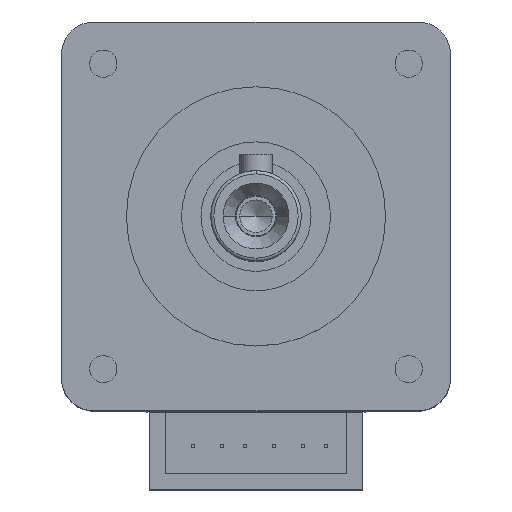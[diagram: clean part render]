
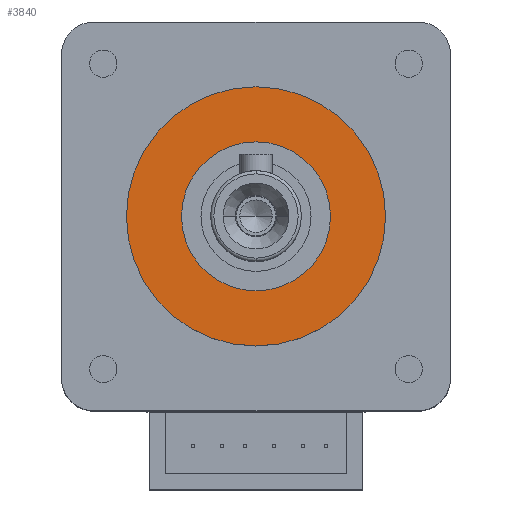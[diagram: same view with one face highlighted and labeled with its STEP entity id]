
A CAD part, top view. The second image highlights one B-rep face of the part: STEP entity #3840.
In plain terms, the highlighted planar face has unit normal (0, 0, 1).
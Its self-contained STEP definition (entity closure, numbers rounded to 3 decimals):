
#173 = CARTESIAN_POINT ( 'NONE',  ( 0., 0., 2.5 ) ) ;
#228 = VERTEX_POINT ( 'NONE', #4759 ) ;
#505 = DIRECTION ( 'NONE',  ( 0., 0., -1. ) ) ;
#790 = CARTESIAN_POINT ( 'NONE',  ( 0., 0., 2.5 ) ) ;
#849 = DIRECTION ( 'NONE',  ( 0., 0., 1. ) ) ;
#912 = DIRECTION ( 'NONE',  ( -1., 0., 0. ) ) ;
#929 = ORIENTED_EDGE ( 'NONE', *, *, #6408, .F. ) ;
#944 = VERTEX_POINT ( 'NONE', #3405 ) ;
#1011 = FACE_OUTER_BOUND ( 'NONE', #5098, .T. ) ;
#1016 = AXIS2_PLACEMENT_3D ( 'NONE', #3865, #849, #4893 ) ;
#1430 = CARTESIAN_POINT ( 'NONE',  ( 11.5, 0., 2.5 ) ) ;
#1603 = CARTESIAN_POINT ( 'NONE',  ( 0., 0., 2.5 ) ) ;
#1663 = AXIS2_PLACEMENT_3D ( 'NONE', #4469, #3964, #912 ) ;
#2080 = DIRECTION ( 'NONE',  ( -1., 0., 0. ) ) ;
#2386 = AXIS2_PLACEMENT_3D ( 'NONE', #1603, #505, #2080 ) ;
#2794 = ORIENTED_EDGE ( 'NONE', *, *, #4737, .F. ) ;
#3285 = FACE_BOUND ( 'NONE', #6131, .T. ) ;
#3327 = VERTEX_POINT ( 'NONE', #5792 ) ;
#3405 = CARTESIAN_POINT ( 'NONE',  ( -20., 0., 2.5 ) ) ;
#3798 = AXIS2_PLACEMENT_3D ( 'NONE', #790, #5319, #4891 ) ;
#3840 = ADVANCED_FACE ( 'NONE', ( #1011, #3285 ), #4687, .F. ) ;
#3865 = CARTESIAN_POINT ( 'NONE',  ( 0., 0., 2.5 ) ) ;
#3964 = DIRECTION ( 'NONE',  ( 0., 0., 1. ) ) ;
#4174 = DIRECTION ( 'NONE',  ( 0., 0., -1. ) ) ;
#4239 = DIRECTION ( 'NONE',  ( -1., 0., 0. ) ) ;
#4354 = EDGE_CURVE ( 'NONE', #228, #944, #5762, .T. ) ;
#4422 = CIRCLE ( 'NONE', #5074, 20. ) ;
#4469 = CARTESIAN_POINT ( 'NONE',  ( 0., 0., 2.5 ) ) ;
#4687 = PLANE ( 'NONE',  #2386 ) ;
#4737 = EDGE_CURVE ( 'NONE', #3327, #5952, #6145, .T. ) ;
#4759 = CARTESIAN_POINT ( 'NONE',  ( 20., 0., 2.5 ) ) ;
#4891 = DIRECTION ( 'NONE',  ( -1., 0., 0. ) ) ;
#4893 = DIRECTION ( 'NONE',  ( -1., 0., 0. ) ) ;
#4905 = CIRCLE ( 'NONE', #1663, 11.5 ) ;
#4969 = EDGE_CURVE ( 'NONE', #944, #228, #4422, .T. ) ;
#5074 = AXIS2_PLACEMENT_3D ( 'NONE', #173, #4174, #4239 ) ;
#5098 = EDGE_LOOP ( 'NONE', ( #5543, #6375 ) ) ;
#5319 = DIRECTION ( 'NONE',  ( 0., 0., -1. ) ) ;
#5543 = ORIENTED_EDGE ( 'NONE', *, *, #4969, .F. ) ;
#5762 = CIRCLE ( 'NONE', #3798, 20. ) ;
#5792 = CARTESIAN_POINT ( 'NONE',  ( -11.5, 0., 2.5 ) ) ;
#5952 = VERTEX_POINT ( 'NONE', #1430 ) ;
#6131 = EDGE_LOOP ( 'NONE', ( #2794, #929 ) ) ;
#6145 = CIRCLE ( 'NONE', #1016, 11.5 ) ;
#6375 = ORIENTED_EDGE ( 'NONE', *, *, #4354, .F. ) ;
#6408 = EDGE_CURVE ( 'NONE', #5952, #3327, #4905, .T. ) ;
